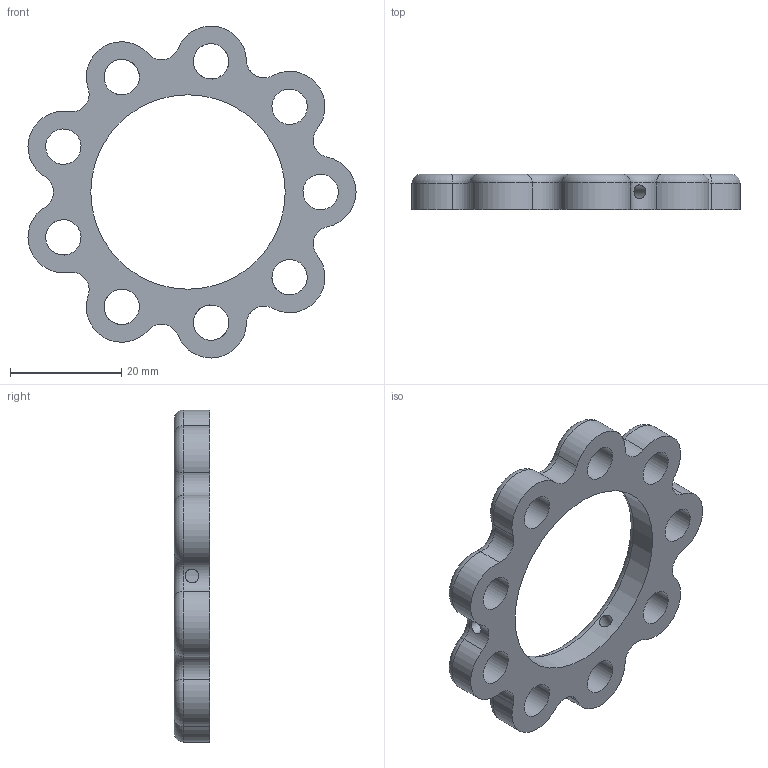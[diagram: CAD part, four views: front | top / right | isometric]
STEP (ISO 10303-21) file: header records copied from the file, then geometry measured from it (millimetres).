
FILE_DESCRIPTION(/* description */ (''),/* implementation_level */ '2;1');
FILE_NAME(/* name */ 'C:\Users\Z\Documents\Inventor\MariahStaff\ribbon ring.stp',/* time_stamp */ '2015-10-30T08:51:48-07:00',/* author */ ('Z'),/* organization */ (''),/* preprocessor_version */ 'ST-DEVELOPER v16.1',/* originating_system */ 'Autodesk Inventor 2016',/* authorisation */ '');
FILE_SCHEMA (('AUTOMOTIVE_DESIGN { 1 0 10303 214 3 1 1 }'));
Length unit declared in the file: inch
Products named in the file (1): ribbon ring
Bounding box: 58.89 x 6.35 x 59.6 mm (x, y, z)
Volume: 7017.4 mm3; surface area: 5332.4 mm2
Topology: 1 solids, 1 shells, 60 faces, 169 edges, 101 vertices
Faces by surface type: cylinder 31, torus 19, plane 10
Full cylindrical faces by diameter (mm): 2.464 x3, 6.35 x9, 34.925 x1
Entity records: 2004 total; most frequent: CARTESIAN_POINT 482, DIRECTION 360, ORIENTED_EDGE 268, AXIS2_PLACEMENT_3D 171, EDGE_CURVE 134, CIRCLE 110, EDGE_LOOP 99, VERTEX_POINT 89
